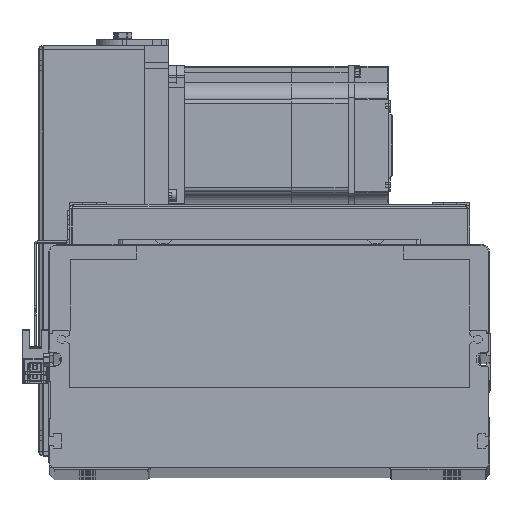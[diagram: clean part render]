
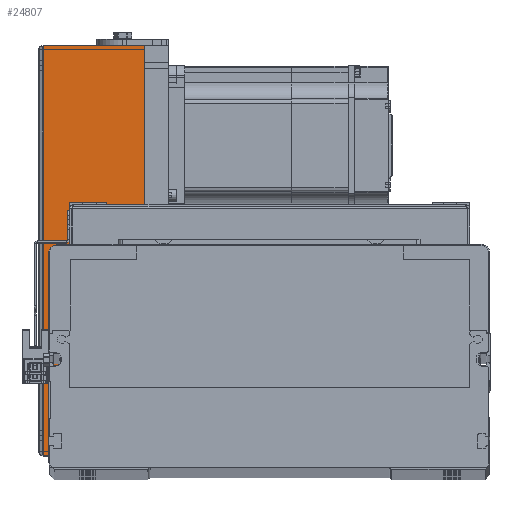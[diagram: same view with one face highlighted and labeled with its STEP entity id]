
A CAD part, top view. The second image highlights one B-rep face of the part: STEP entity #24807.
In plain terms, the highlighted planar face has unit normal (0, 0, 1) as drawn and (0, 1, 0) by its records, which use the part's own axes.
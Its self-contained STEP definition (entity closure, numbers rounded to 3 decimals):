
#1103 = CARTESIAN_POINT ( 'NONE',  ( -102.5, 54., 62.7 ) ) ;
#1980 = FACE_OUTER_BOUND ( 'NONE', #48589, .T. ) ;
#2704 = ORIENTED_EDGE ( 'NONE', *, *, #20861, .T. ) ;
#3482 = LINE ( 'NONE', #35497, #42555 ) ;
#3671 = CARTESIAN_POINT ( 'NONE',  ( 0., 54., 12. ) ) ;
#11669 = DIRECTION ( 'NONE',  ( 0., 0., -1. ) ) ;
#12274 = ORIENTED_EDGE ( 'NONE', *, *, #38735, .T. ) ;
#13354 = VECTOR ( 'NONE', #43854, 1000. ) ;
#13355 = ORIENTED_EDGE ( 'NONE', *, *, #38608, .F. ) ;
#14153 = PLANE ( 'NONE',  #22722 ) ;
#16944 = CARTESIAN_POINT ( 'NONE',  ( 102.5, 54., 62.7 ) ) ;
#18901 = CARTESIAN_POINT ( 'NONE',  ( 102.5, 54., 62.7 ) ) ;
#20861 = EDGE_CURVE ( 'NONE', #44906, #38367, #39647, .T. ) ;
#21341 = VERTEX_POINT ( 'NONE', #30964 ) ;
#22722 = AXIS2_PLACEMENT_3D ( 'NONE', #34063, #45578, #45865 ) ;
#23578 = CARTESIAN_POINT ( 'NONE',  ( 102.5, 54., 12. ) ) ;
#24807 = ADVANCED_FACE ( 'NONE', ( #1980 ), #14153, .F. ) ;
#25807 = VECTOR ( 'NONE', #31451, 1000. ) ;
#26497 = VERTEX_POINT ( 'NONE', #16944 ) ;
#30964 = CARTESIAN_POINT ( 'NONE',  ( -102.5, 54., 62.7 ) ) ;
#31451 = DIRECTION ( 'NONE',  ( 0., 0., -1. ) ) ;
#31466 = VECTOR ( 'NONE', #37639, 1000. ) ;
#34063 = CARTESIAN_POINT ( 'NONE',  ( 0., 54., 63. ) ) ;
#35497 = CARTESIAN_POINT ( 'NONE',  ( -102.5, 54., 62.7 ) ) ;
#37639 = DIRECTION ( 'NONE',  ( -1., 0., 0. ) ) ;
#38367 = VERTEX_POINT ( 'NONE', #41313 ) ;
#38608 = EDGE_CURVE ( 'NONE', #21341, #38367, #3482, .T. ) ;
#38735 = EDGE_CURVE ( 'NONE', #26497, #44906, #47448, .T. ) ;
#39647 = LINE ( 'NONE', #3671, #13354 ) ;
#40664 = ORIENTED_EDGE ( 'NONE', *, *, #43060, .F. ) ;
#41313 = CARTESIAN_POINT ( 'NONE',  ( -102.5, 54., 12. ) ) ;
#42555 = VECTOR ( 'NONE', #11669, 1000. ) ;
#43060 = EDGE_CURVE ( 'NONE', #26497, #21341, #50243, .T. ) ;
#43854 = DIRECTION ( 'NONE',  ( -1., 0., 0. ) ) ;
#44906 = VERTEX_POINT ( 'NONE', #23578 ) ;
#45578 = DIRECTION ( 'NONE',  ( 0., -1., 0. ) ) ;
#45865 = DIRECTION ( 'NONE',  ( 0., 0., 1. ) ) ;
#47448 = LINE ( 'NONE', #18901, #25807 ) ;
#48589 = EDGE_LOOP ( 'NONE', ( #40664, #12274, #2704, #13355 ) ) ;
#50243 = LINE ( 'NONE', #1103, #31466 ) ;
